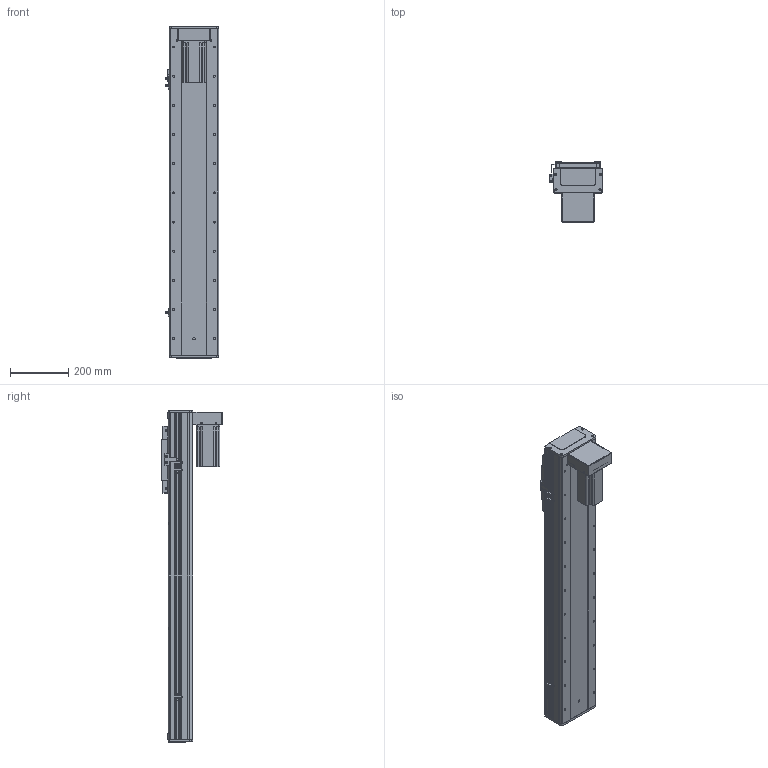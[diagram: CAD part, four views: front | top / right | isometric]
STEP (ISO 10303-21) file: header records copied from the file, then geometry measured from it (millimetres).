
FILE_DESCRIPTION (( 'STEP AP203' ), '1' );
FILE_NAME ('RY170F-L2010-300-BK.SLDASM_800.step', '2021-03-02T08:56:04', ( '盈信电脑' ), ( '东莞市道滘镇水果街19号' ), 'SwSTEP 2.0', 'SolidWorks 2012', '' );
FILE_SCHEMA (( 'CONFIG_CONTROL_DESIGN' ));
Length unit declared in the file: millimetre
Products named in the file (20): RY170F-L2010-300-BK.SLDASM_800; RY170F狟殏萇儂欶; 怢湛750W萇儂ㄗ80遺ㄘ; RY170F-狟殏萇儂假蚾啣(750W); RY170狟殏詩湍假蚾輸; RY170F-揤踡謫假蚾粣; 侐源滅袉蝶; RY170F-詩湍揤踡輸; 滅袉蝶18-24; RY170F俋离覜茼え; RY170F-綴裔啣; 覜茼ん672; RY100F-詩湍揤踡謫; 滅袉蝶18-10; RY170F-丝杆铝滑块连接板; RY170F-佪裝臏賑輸20蹟譫; RY170F-300眻蟀祥凄詩湍-MK_800; RY170F-300眻蟀倰第菁釱-BK_800; RY170F-滅鳥奻裔; RY170F-300眻蟀倰第奻裔啣-BK_800
Assembly tree (25 placements, depth 2):
  RY170F-L2010-300-BK.SLDASM_800
    RY170F-300眻蟀祥凄詩湍-MK_800
    RY170F-300眻蟀倰第奻裔啣-BK_800  x2
    RY170F-滅鳥奻裔
    RY170F-300眻蟀倰第菁釱-BK_800
    RY170F-佪裝臏賑輸20蹟譫
    RY170F-丝杆铝滑块连接板
    滅袉蝶18-10
    RY100F-詩湍揤踡謫
    RY170F-綴裔啣  x2
    覜茼ん672  x3
    RY170F俋离覜茼え
    RY170F-揤踡謫假蚾粣
    RY170F-詩湍揤踡輸  x2
    滅袉蝶18-24
    侐源滅袉蝶  x2
    RY170F-狟殏萇儂假蚾啣(750W)
    怢湛750W萇儂ㄗ80遺ㄘ
    RY170F狟殏萇儂欶
    RY170狟殏詩湍假蚾輸
Bounding box: 183.7 x 208 x 1138 mm (x, y, z)
Volume: 6672823.3 mm3; surface area: 2182449.1 mm2
Topology: 25 solids, 25 shells, 1870 faces, 5169 edges, 3276 vertices
Faces by surface type: cylinder 892, plane 762, cone 212, bspline 4
Entity records: 52260 total; most frequent: CARTESIAN_POINT 10400, DIRECTION 8502, ORIENTED_EDGE 8070, EDGE_CURVE 4035, AXIS2_PLACEMENT_3D 3074, VERTEX_POINT 2632, LINE 2354, VECTOR 2354
